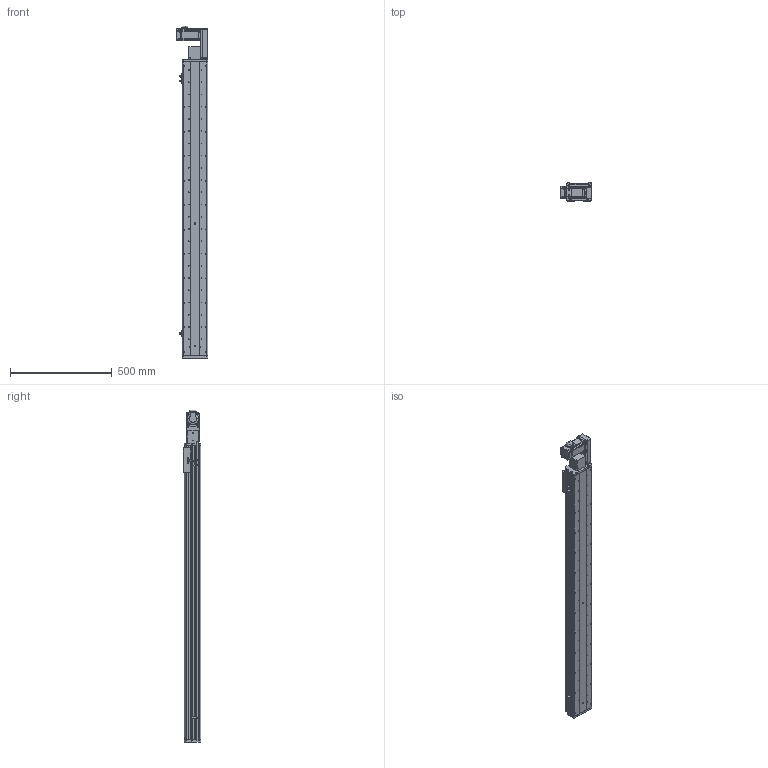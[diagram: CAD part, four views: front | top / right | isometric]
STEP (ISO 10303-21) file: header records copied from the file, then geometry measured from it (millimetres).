
FILE_DESCRIPTION (( 'STEP AP214' ), '1' );
FILE_NAME ('KSD125B-S1250-MLB-CM.STEP', '2017-10-21T01:59:42', ( '微软用户' ), ( '微软中国' ), 'SwSTEP 2.0', 'SolidWorks 2014', '' );
FILE_SCHEMA (( 'AUTOMOTIVE_DESIGN' ));
Length unit declared in the file: millimetre
Products named in the file (17): U倰嫖萇EEㄜSX672; KSD125模组同步带-防撞垫1; 前端板-125宽模组同步带; 125模组同步带-尾端板1; KSD125模组同步带-滑动座1; KSD125B-S1250-MLB-CM; 悵誘欶奻狟殏; HTPA30S3M150_A_H6_a佪裝蚚; HTPA30S3M150_A_H6_a萇儂蚚; 100宽马达安装板连板上下折丝杆同步带; 100宽马达安装板同步带左; KSD125模组1250行程同步带-防尘盖; 125模组1250行程同步带-底板; MHMD042G1CA_2_03; KSD125模组同步带-防撞垫2; 覜茼え68遵圉猾敕; U倰嫖萇假蚾璃
Assembly tree (20 placements, depth 2):
  KSD125B-S1250-MLB-CM
    KSD125模组同步带-滑动座1
    125模组同步带-尾端板1
    前端板-125宽模组同步带
    KSD125模组同步带-防撞垫1
    U倰嫖萇EEㄜSX672  x3
    U倰嫖萇假蚾璃  x3
    覜茼え68遵圉猾敕
    KSD125模组同步带-防撞垫2
    MHMD042G1CA_2_03
    125模组1250行程同步带-底板
    KSD125模组1250行程同步带-防尘盖
    100宽马达安装板同步带左
    100宽马达安装板连板上下折丝杆同步带
    HTPA30S3M150_A_H6_a萇儂蚚
    HTPA30S3M150_A_H6_a佪裝蚚
    悵誘欶奻狟殏
Bounding box: 155 x 86 x 1628 mm (x, y, z)
Volume: 4593687.6 mm3; surface area: 1530424.9 mm2
Topology: 19 solids, 22 shells, 2347 faces, 6805 edges, 4498 vertices
Faces by surface type: cylinder 1488, plane 732, cone 105, bspline 22
Entity records: 83843 total; most frequent: CARTESIAN_POINT 16515, DIRECTION 13026, ORIENTED_EDGE 12130, EDGE_CURVE 6143, AXIS2_PLACEMENT_3D 5049, VERTEX_POINT 4090, VECTOR 2928, LINE 2928
